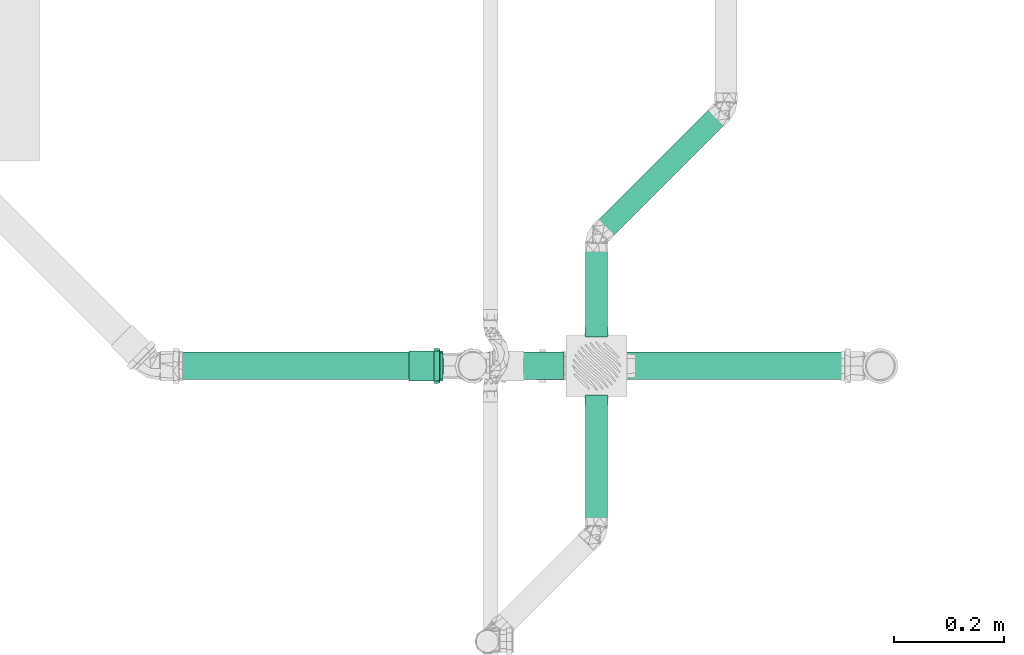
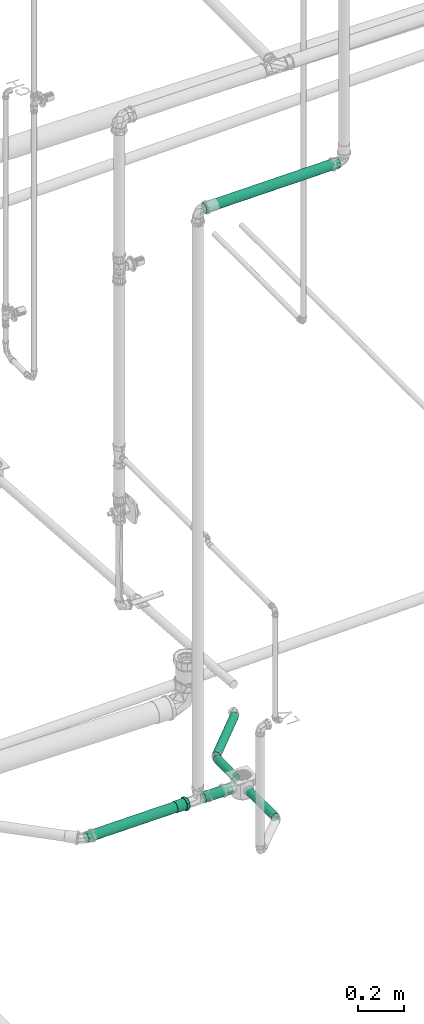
# One storey, part 85 of 589: 6 flow segments, 1 flow fitting.
"""IFC2X3 building model written with IfcOpenShell, lengths in millimetres."""

from ifc_helpers import new_model, entity, si_unit, converted_unit, derived_unit, direction, frame, frame_2d, origin, origin_2d_with_axis, place, context, subcontext, project, spatial, circle, extrude, faceted_brep, source, transform, mapped, material, type_object, type_shapes, element, save


model = new_model("IFC2X3")

# Units and contexts
model_context = context("Model", 3, precision=0.01, world=origin(), true_north=direction((6.123031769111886e-17, 1.0)))
body_context = subcontext(model_context, "Body", "Model", "MODEL_VIEW")
ifc_project = project(units=[si_unit("LENGTHUNIT", "METRE", prefix="MILLI"), si_unit("AREAUNIT", "SQUARE_METRE"), si_unit("VOLUMEUNIT", "CUBIC_METRE"), converted_unit("PLANEANGLEUNIT", "DEGREE", entity("IfcRatioMeasure", 0.017453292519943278), si_unit("PLANEANGLEUNIT", "RADIAN"), dimensions=[0, 0, 0, 0, 0, 0, 0]), si_unit("MASSUNIT", "GRAM", prefix="KILO"), derived_unit("MASSDENSITYUNIT", [(si_unit("MASSUNIT", "GRAM", prefix="KILO"), 1), (si_unit("LENGTHUNIT", "METRE"), -3)]), derived_unit("IONCONCENTRATIONUNIT", [(si_unit("MASSUNIT", "GRAM", prefix="KILO"), 1), (si_unit("LENGTHUNIT", "METRE"), -3)]), derived_unit("MOMENTOFINERTIAUNIT", [(si_unit("LENGTHUNIT", "METRE"), 4)]), si_unit("TIMEUNIT", "SECOND"), si_unit("FREQUENCYUNIT", "HERTZ"), si_unit("THERMODYNAMICTEMPERATUREUNIT", "DEGREE_CELSIUS"), derived_unit("THERMALTRANSMITTANCEUNIT", [(si_unit("MASSUNIT", "GRAM", prefix="KILO"), 1), (si_unit("THERMODYNAMICTEMPERATUREUNIT", "KELVIN"), -1), (si_unit("TIMEUNIT", "SECOND"), -3)]), derived_unit("THERMALCONDUCTANCEUNIT", [(si_unit("MASSUNIT", "GRAM", prefix="KILO"), 1), (si_unit("THERMODYNAMICTEMPERATUREUNIT", "KELVIN"), -1), (si_unit("TIMEUNIT", "SECOND"), -3), (si_unit("LENGTHUNIT", "METRE"), 1)]), derived_unit("VOLUMETRICFLOWRATEUNIT", [(si_unit("LENGTHUNIT", "METRE"), 3), (si_unit("TIMEUNIT", "SECOND"), -1)]), derived_unit("MASSFLOWRATEUNIT", [(si_unit("MASSUNIT", "GRAM", prefix="KILO"), 1), (si_unit("TIMEUNIT", "SECOND"), -1)]), derived_unit("ROTATIONALFREQUENCYUNIT", [(si_unit("TIMEUNIT", "SECOND"), -1)]), si_unit("ELECTRICCURRENTUNIT", "AMPERE"), si_unit("ELECTRICVOLTAGEUNIT", "VOLT"), si_unit("POWERUNIT", "WATT"), si_unit("FORCEUNIT", "NEWTON", prefix="KILO"), si_unit("ILLUMINANCEUNIT", "LUX"), si_unit("LUMINOUSFLUXUNIT", "LUMEN"), si_unit("LUMINOUSINTENSITYUNIT", "CANDELA"), derived_unit("USERDEFINED", [(si_unit("MASSUNIT", "GRAM", prefix="KILO"), -1), (si_unit("LENGTHUNIT", "METRE"), -2), (si_unit("TIMEUNIT", "SECOND"), 3), (si_unit("LUMINOUSFLUXUNIT", "LUMEN"), 1)]), derived_unit("USERDEFINED", [(si_unit("MASSUNIT", "GRAM", prefix="KILO"), 1), (si_unit("TIMEUNIT", "SECOND"), -3), (si_unit("LENGTHUNIT", "METRE"), 3), (si_unit("ELECTRICCURRENTUNIT", "AMPERE"), -2)]), derived_unit("SOUNDPOWERUNIT", [(si_unit("MASSUNIT", "GRAM", prefix="KILO"), 1), (si_unit("TIMEUNIT", "SECOND"), -3), (si_unit("LENGTHUNIT", "METRE"), 2)]), derived_unit("SOUNDPRESSUREUNIT", [(si_unit("MASSUNIT", "GRAM", prefix="KILO"), 1), (si_unit("LENGTHUNIT", "METRE"), -1), (si_unit("TIMEUNIT", "SECOND"), -2)]), derived_unit("LINEARVELOCITYUNIT", [(si_unit("LENGTHUNIT", "METRE"), 1), (si_unit("TIMEUNIT", "SECOND"), -1)]), si_unit("PRESSUREUNIT", "PASCAL"), derived_unit("USERDEFINED", [(si_unit("MASSUNIT", "GRAM", prefix="KILO"), 1), (si_unit("LENGTHUNIT", "METRE"), -2), (si_unit("TIMEUNIT", "SECOND"), -2)]), derived_unit("LINEARFORCEUNIT", [(si_unit("MASSUNIT", "GRAM", prefix="KILO"), 1), (si_unit("TIMEUNIT", "SECOND"), -2)]), derived_unit("PLANARFORCEUNIT", [(si_unit("MASSUNIT", "GRAM", prefix="KILO"), 1), (si_unit("LENGTHUNIT", "METRE"), -1), (si_unit("TIMEUNIT", "SECOND"), -2)]), derived_unit("SPECIFICHEATCAPACITYUNIT", [(si_unit("THERMODYNAMICTEMPERATUREUNIT", "KELVIN"), -1), (si_unit("LENGTHUNIT", "METRE"), 2), (si_unit("TIMEUNIT", "SECOND"), -2)]), derived_unit("HEATINGVALUEUNIT", [(si_unit("LENGTHUNIT", "METRE"), 2), (si_unit("TIMEUNIT", "SECOND"), -2)]), derived_unit("VAPORPERMEABILITYUNIT", [(si_unit("LENGTHUNIT", "METRE"), -1), (si_unit("TIMEUNIT", "SECOND"), 1)]), derived_unit("DYNAMICVISCOSITYUNIT", [(si_unit("MASSUNIT", "GRAM", prefix="KILO"), 1), (si_unit("TIMEUNIT", "SECOND"), -1), (si_unit("LENGTHUNIT", "METRE"), -1)]), derived_unit("THERMALEXPANSIONCOEFFICIENTUNIT", [(si_unit("THERMODYNAMICTEMPERATUREUNIT", "KELVIN"), -1)]), derived_unit("MODULUSOFELASTICITYUNIT", [(si_unit("MASSUNIT", "GRAM", prefix="KILO"), 1), (si_unit("LENGTHUNIT", "METRE"), -1), (si_unit("TIMEUNIT", "SECOND"), -2)]), derived_unit("ISOTHERMALMOISTURECAPACITYUNIT", [(si_unit("LENGTHUNIT", "METRE"), 3), (si_unit("MASSUNIT", "GRAM", prefix="KILO"), -1)]), derived_unit("MOISTUREDIFFUSIVITYUNIT", [(si_unit("TIMEUNIT", "SECOND"), -1), (si_unit("LENGTHUNIT", "METRE"), 2)])], contexts=[model_context])

# Site, building, storey
site_placement = place(None, origin())
site = spatial("IfcSite", under=ifc_project, at=site_placement, Name="Default", CompositionType="ELEMENT")
building_placement = place(site_placement, origin())
building = spatial("IfcBuilding", under=site, at=building_placement, CompositionType="ELEMENT")
storey_placement = place(building_placement, frame((0.0, 0.0, 100.0)))
storey = spatial("IfcBuildingStorey", under=building, at=storey_placement, Name="TÉRREO", CompositionType="ELEMENT", Elevation=100.0)

# Flow segments
pipe_segment_type = type_object("IfcPipeSegmentType", Name="Tipos de tubos:PVC Esgoto Série Normal", PredefinedType="NOTDEFINED")
flow_segment_1_placement = place(storey_placement, origin())
element("IfcFlowSegment", 1, at=flow_segment_1_placement, inside=storey, type_object=pipe_segment_type, Name="Tipos de tubos:PVC Esgoto Série Normal", ObjectType="Tipos de tubos:PVC Esgoto Série Normal", context=body_context, shape_type="SweptSolid", body=[
    extrude(circle(Radius=20.0, at=frame_2d((-7.65702690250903e-13, 1.6054240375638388e-15), x_axis=(1.0, 0.0))), frame((-7362.257950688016, -1033.5807166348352, -176.9681707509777), z_axis=(0.7069654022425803, 0.7069654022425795, 0.019996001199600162), x_axis=(-0.7071067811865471, 0.7071067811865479, 0.0)), (0.0, 0.0, 1.0), 309.4675500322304),
])
flow_segment_2_placement = place(storey_placement, origin())
element("IfcFlowSegment", 2, at=flow_segment_2_placement, inside=storey, type_object=pipe_segment_type, Name="Tipos de tubos:PVC Esgoto Série Normal", ObjectType="Tipos de tubos:PVC Esgoto Série Normal", context=body_context, shape_type="SweptSolid", body=[
    extrude(circle(Radius=20.0, at=frame_2d((0.0, -1.6916415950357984e-14), x_axis=(1.0, 0.0))), frame((-7370.385541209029, -1222.7092449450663, -180.81807248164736), z_axis=(0.0, 0.9998000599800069, 0.019996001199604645), x_axis=(1.0, 0.0, 0.0)), (0.0, 0.0, 1.0), 169.54068701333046),
])
flow_segment_3_placement = place(storey_placement, origin())
element("IfcFlowSegment", 3, at=flow_segment_3_placement, inside=storey, type_object=pipe_segment_type, Name="Tipos de tubos:PVC Esgoto Série Normal", ObjectType="Tipos de tubos:PVC Esgoto Série Normal", context=body_context, shape_type="SweptSolid", body=[
    extrude(circle(Radius=20.0, at=frame_2d((0.0, -1.6919798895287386e-14), x_axis=(1.0, 0.0))), frame((-7370.385541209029, -1565.8604659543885, -180.81807248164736), z_axis=(0.0, 1.0, 0.0), x_axis=(-1.0, 0.0, 0.0)), (0.0, 0.0, 1.0), 237.35122100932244),
])
flow_segment_4_placement = place(storey_placement, origin())
element("IfcFlowSegment", 4, at=flow_segment_4_placement, inside=storey, type_object=pipe_segment_type, Name="Tipos de tubos:PVC Esgoto Série Normal", ObjectType="Tipos de tubos:PVC Esgoto Série Normal", context=body_context, shape_type="SweptSolid", body=[
    extrude(circle(Radius=25.0, at=frame_2d((0.0, -1.691895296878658e-14), x_axis=(1.0, 0.0))), frame((-8161.48197080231, -1275.6092449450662, -188.13903677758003), z_axis=(0.9999500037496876, 0.0, 0.00999950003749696), x_axis=(0.0, 1.0, 0.0)), (0.0, 0.0, 1.0), 480.379283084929),
])
flow_segment_5_placement = place(storey_placement, origin())
element("IfcFlowSegment", 5, at=flow_segment_5_placement, inside=storey, type_object=pipe_segment_type, Name="Tipos de tubos:PVC Esgoto Série Normal", ObjectType="Tipos de tubos:PVC Esgoto Série Normal", context=body_context, shape_type="SweptSolid", body=[
    extrude(circle(Radius=25.0, at=frame_2d((0.0, -3.383959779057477e-14), x_axis=(1.0, 0.0))), frame((-7567.832369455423, -1275.6092449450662, -182.20254076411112), z_axis=(1.0, 0.0, 0.0), x_axis=(0.0, 1.0, 0.0)), (0.0, 0.0, 1.0), 138.44682824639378),
])
flow_segment_6_placement = place(storey_placement, origin())
element("IfcFlowSegment", 6, at=flow_segment_6_placement, inside=storey, type_object=pipe_segment_type, Name="Tipos de tubos:PVC Esgoto Série Normal", ObjectType="Tipos de tubos:PVC Esgoto Série Normal", context=body_context, shape_type="SweptSolid", body=[
    extrude(circle(Radius=25.0, at=origin_2d_with_axis()), frame((-7564.238781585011, -1275.6092449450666, 2972.586374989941), z_axis=(0.9999500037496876, 0.0, 0.009999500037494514), x_axis=(0.0, -1.0, 0.0)), (0.0, 0.0, 1.0), 678.1543991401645),
])

# Flow fitting
ifc_material = material(Name="PVC Série Normal")
pipe_fitting_type = type_object("IfcPipeFittingType", Name="PVC Esgoto_Luva Simples para Conexão_Rodrigo MEP:Standard", PredefinedType="NOTDEFINED", material=ifc_material)
shared_shape = source(origin(), body_context, "Body", "Brep", [
    faceted_brep([(16.599999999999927, 15.900000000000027, -27.53960784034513), (16.599999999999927, 22.485995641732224, -22.485995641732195), (16.599999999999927, 13.599999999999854, -23.555890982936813), (16.599999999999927, 7.039878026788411, -26.273182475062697), (16.599999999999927, 8.2304456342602, -30.71644127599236), (16.599999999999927, 19.233304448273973, -19.233304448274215), (16.599999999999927, 27.539607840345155, -15.899999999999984), (16.599999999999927, 23.55589098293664, -13.600000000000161), (16.599999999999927, 26.273182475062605, -7.03987802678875), (16.599999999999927, 30.716441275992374, -8.230445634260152), (16.599999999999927, 27.2, 0.0), (16.599999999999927, 31.8, 0.0), (16.599999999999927, 26.273182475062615, 7.0398780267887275), (16.599999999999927, 30.71644127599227, 8.23044563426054), (16.599999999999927, 23.555890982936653, 13.60000000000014), (16.599999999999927, 27.539607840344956, 15.900000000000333), (16.599999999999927, 19.233304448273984, 19.2333044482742), (16.599999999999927, 22.485995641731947, 22.48599564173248), (16.599999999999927, 13.599999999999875, 23.555890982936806), (16.599999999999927, 15.899999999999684, 27.53960784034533), (16.599999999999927, 7.039878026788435, 26.27318247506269), (16.599999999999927, 8.230445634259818, 30.716441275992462), (16.599999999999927, 0.0, 27.2), (16.599999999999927, 0.0, 31.8), (16.599999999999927, -7.039878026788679, 26.273182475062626), (16.599999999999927, -8.230445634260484, 30.716441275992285), (16.599999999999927, -13.600000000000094, 23.555890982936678), (16.599999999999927, -15.900000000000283, 27.53960784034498), (16.599999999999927, -19.23330444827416, 19.233304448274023), (16.599999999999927, -22.485995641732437, 22.48599564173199), (16.599999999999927, -23.55589098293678, 13.59999999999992), (16.599999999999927, -27.539607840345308, 15.899999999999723), (16.599999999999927, -30.71644127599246, 8.230445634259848), (16.599999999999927, -26.273182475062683, 7.039878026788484), (16.599999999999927, -31.8, 0.0), (16.599999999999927, -27.2, 0.0), (16.599999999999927, -30.71644127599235, -8.23044563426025), (16.599999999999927, -26.273182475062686, -7.03987802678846), (16.599999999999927, -27.53960784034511, -15.90000000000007), (16.599999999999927, -23.55589098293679, -13.599999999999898), (16.599999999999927, -22.485995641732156, -22.485995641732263), (16.599999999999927, -19.233304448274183, -19.233304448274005), (16.599999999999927, -15.899999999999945, -27.53960784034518), (16.599999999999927, -13.600000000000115, -23.555890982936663), (16.599999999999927, -8.230445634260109, -30.716441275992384), (16.599999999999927, -7.039878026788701, -26.273182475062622), (16.599999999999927, 0.0, -31.8), (16.599999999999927, 0.0, -27.2), (6.500000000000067, -10.708108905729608, 29.429219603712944), (6.500000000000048, -24.359073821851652, 20.44200387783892), (6.500000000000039, -27.120498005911, 15.6595386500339), (6.50000000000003, -29.881922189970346, 10.877073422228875), (6.500000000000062, -15.89769721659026, 27.540937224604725), (6.500000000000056, -20.128385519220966, 23.991470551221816), (6.50000000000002, -30.840961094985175, 5.438536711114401), (6.5000000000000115, -31.8, 0.0), (6.50000000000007, -5.518520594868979, 31.317501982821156), (6.500000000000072, 5.526376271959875, 31.316116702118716), (6.50000000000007, 0.00392783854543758, 31.316809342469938), (6.500000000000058, 20.134403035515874, 23.986420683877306), (6.500000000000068, 10.715490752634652, 29.42653259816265), (6.500000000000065, 15.904605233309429, 27.536948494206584), (6.500000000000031, 29.8846497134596, 10.869577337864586), (6.500000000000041, 27.12442527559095, 15.652735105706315), (6.5000000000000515, 24.364200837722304, 20.435892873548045), (6.5000000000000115, 31.8, 0.0), (6.499999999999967, 24.364200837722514, -20.435892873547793), (6.499999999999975, 27.12442527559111, -15.652735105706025), (6.499999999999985, 29.884649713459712, -10.869577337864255), (6.4999999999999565, 15.904605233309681, -27.53694849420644), (6.499999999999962, 20.134403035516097, -23.986420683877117), (6.499999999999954, 10.715490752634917, -29.42653259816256), (6.499999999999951, 5.526376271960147, -31.31611670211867), (6.499999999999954, -5.518520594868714, -31.317501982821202), (6.499999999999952, 0.003927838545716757, -31.316809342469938), (6.499999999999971, -20.128385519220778, -23.99147055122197), (6.499999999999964, -15.897697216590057, -27.54093722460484), (6.499999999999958, -10.70810890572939, -29.42921960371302), (6.499999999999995, -29.881922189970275, -10.877073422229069), (6.499999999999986, -27.12049800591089, -15.659538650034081), (6.499999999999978, -24.359073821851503, -20.442003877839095), (6.500000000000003, -30.840961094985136, -5.438536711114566), (6.499999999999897, -30.696173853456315, -6.259599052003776), (62.0, 13.600000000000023, -23.55589098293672), (62.0, 19.233304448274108, -19.23330444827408), (62.0, 12.499999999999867, -21.650635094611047), (62.0, 6.470476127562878, -24.14814565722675), (62.0, 7.039878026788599, -26.273182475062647), (62.0, 17.677669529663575, -17.677669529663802), (62.0, 23.55589098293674, -13.599999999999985), (62.0, 21.65063509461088, -12.50000000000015), (62.0, 24.148145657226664, -6.470476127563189), (62.0, 26.27318247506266, -7.039878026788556), (62.0, 25.0, 0.0), (62.0, 27.2, 0.0), (62.0, 24.148145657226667, 6.4704761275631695), (62.0, 26.273182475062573, 7.03987802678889), (62.0, 21.650635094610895, 12.500000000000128), (62.0, 23.555890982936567, 13.600000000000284), (62.0, 17.67766952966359, 17.67766952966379), (62.0, 19.233304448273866, 19.233304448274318), (62.0, 12.499999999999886, 21.650635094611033), (62.0, 13.59999999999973, 23.55589098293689), (62.0, 6.4704761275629, 24.14814565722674), (62.0, 7.039878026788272, 26.273182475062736), (62.0, 0.0, 25.0), (62.0, 0.0, 27.2), (62.0, -6.470476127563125, 24.148145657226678), (62.0, -7.039878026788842, 26.273182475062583), (62.0, -12.500000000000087, 21.650635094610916), (62.0, -13.600000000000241, 23.555890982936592), (62.0, -17.677669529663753, 17.677669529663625), (62.0, -19.233304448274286, 19.2333044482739), (62.0, -21.65063509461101, 12.499999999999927), (62.0, -23.555890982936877, 13.599999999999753), (62.0, -26.27318247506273, 7.039878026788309), (62.0, -24.14814565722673, 6.470476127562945), (62.0, -27.2, 0.0), (62.0, -25.0, 0.0), (62.0, -26.27318247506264, -7.0398780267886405), (62.0, -24.148145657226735, -6.470476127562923), (62.0, -23.5558909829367, -13.600000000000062), (62.0, -21.650635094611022, -12.499999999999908), (62.0, -19.233304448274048, -19.233304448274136), (62.0, -17.67766952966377, -17.677669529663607), (62.0, -13.599999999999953, -23.555890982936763), (62.0, -12.500000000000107, -21.650635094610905), (62.0, -7.039878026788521, -26.27318247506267), (62.0, -6.470476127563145, -24.148145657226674), (62.0, 0.0, -27.2), (62.0, 0.0, -25.0), (0.0, 12.499999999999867, -21.650635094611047), (0.0, 19.233304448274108, -19.23330444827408), (0.0, 13.600000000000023, -23.55589098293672), (0.0, 6.470476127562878, -24.14814565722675), (0.0, 17.677669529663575, -17.677669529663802), (0.0, 23.55589098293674, -13.599999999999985), (0.0, 21.65063509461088, -12.50000000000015), (0.0, 24.148145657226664, -6.470476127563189), (0.0, 26.27318247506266, -7.039878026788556), (0.0, 25.0, 0.0), (0.0, 27.2, 0.0), (0.0, 24.148145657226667, 6.4704761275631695), (0.0, 26.273182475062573, 7.03987802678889), (0.0, 21.650635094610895, 12.500000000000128), (0.0, 23.555890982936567, 13.600000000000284), (0.0, 17.67766952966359, 17.67766952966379), (0.0, 19.233304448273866, 19.233304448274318), (0.0, 12.499999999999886, 21.650635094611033), (0.0, 13.59999999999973, 23.55589098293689), (0.0, 6.4704761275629, 24.14814565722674), (0.0, 7.039878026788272, 26.273182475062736), (0.0, 0.0, 25.0), (0.0, 0.0, 27.2), (0.0, -6.470476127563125, 24.148145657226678), (0.0, -7.039878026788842, 26.273182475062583), (0.0, -12.500000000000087, 21.650635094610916), (0.0, -13.600000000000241, 23.555890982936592), (0.0, -17.677669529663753, 17.677669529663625), (0.0, -19.233304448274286, 19.2333044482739), (0.0, -21.65063509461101, 12.499999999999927), (0.0, -23.555890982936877, 13.599999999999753), (0.0, -26.27318247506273, 7.039878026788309), (0.0, -24.14814565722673, 6.470476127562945), (0.0, -27.2, 0.0), (0.0, -25.0, 0.0), (0.0, -26.27318247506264, -7.0398780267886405), (0.0, -24.148145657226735, -6.470476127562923), (0.0, -23.5558909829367, -13.600000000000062), (0.0, -21.650635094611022, -12.499999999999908), (0.0, -19.233304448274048, -19.233304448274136), (0.0, -17.67766952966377, -17.677669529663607), (0.0, -13.599999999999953, -23.555890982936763), (0.0, -12.500000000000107, -21.650635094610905), (0.0, -7.039878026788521, -26.27318247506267), (0.0, -6.470476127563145, -24.148145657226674), (0.0, 0.0, -27.2), (0.0, 0.0, -25.0), (0.0, 7.039878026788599, -26.273182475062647), (5.300000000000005, -26.37968999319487, 4.651830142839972), (5.299999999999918, -26.25584678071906, 5.354122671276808), (5.300000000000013, -25.559379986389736, 9.303660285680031), (5.300000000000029, -20.835434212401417, 17.48498444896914), (5.300000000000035, -17.216732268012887, 20.521006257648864), (5.300000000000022, -23.19740709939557, 13.394322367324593), (5.3000000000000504, -4.720244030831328, 26.787297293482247), (5.300000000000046, -9.15913717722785, 25.172162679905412), (5.299999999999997, -27.2, 0.0), (5.300000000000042, -13.598030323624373, 23.557028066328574), (5.300000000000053, 9.165451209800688, 25.169864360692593), (5.300000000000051, 13.603939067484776, 23.55361632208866), (5.300000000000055, 4.7269633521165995, 26.786112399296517), (5.300000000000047, 17.221879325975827, 20.516686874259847), (5.300000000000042, 20.839819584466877, 17.479757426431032), (5.3000000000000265, 25.56171296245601, 9.297248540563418), (5.299999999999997, 27.2, 0.0), (5.3000000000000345, 23.20076627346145, 13.388502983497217), (5.300000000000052, 0.003359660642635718, 26.786704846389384), (5.299999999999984, 25.56171296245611, -9.29724854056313), (5.299999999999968, 20.839819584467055, -17.47975742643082), (5.2999999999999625, 17.22187932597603, -20.516686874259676), (5.299999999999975, 23.200766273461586, -13.388502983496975), (5.299999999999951, 4.726963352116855, -26.78611239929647), (5.2999999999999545, 9.165451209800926, -25.169864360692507), (5.299999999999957, 13.603939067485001, -23.553616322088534), (5.29999999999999, -26.379689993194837, -4.651830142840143), (5.299999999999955, -9.159137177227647, -25.17216267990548), (5.299999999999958, -13.5980303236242, -23.55702806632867), (5.299999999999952, -4.720244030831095, -26.787297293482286), (5.299999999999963, -17.216732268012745, -20.52100625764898), (5.299999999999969, -20.83543421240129, -17.484984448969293), (5.299999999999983, -25.559379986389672, -9.303660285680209), (5.299999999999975, -23.197407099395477, -13.394322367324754), (5.299999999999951, 0.003359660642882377, -26.78670484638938), (39.0, -25.0, 0.0), (39.0, 25.0, 0.0)], [[[0, 1, 2]], [[0, 2, 3]], [[3, 4, 0]], [[2, 1, 5]], [[6, 5, 1]], [[7, 5, 6]], [[8, 7, 6]], [[8, 6, 9]], [[8, 9, 10]], [[10, 9, 11]], [[12, 10, 11]], [[12, 11, 13]], [[14, 12, 13]], [[14, 13, 15]], [[16, 14, 15]], [[15, 17, 16]], [[17, 18, 16]], [[17, 19, 18]], [[18, 19, 20]], [[21, 20, 19]], [[20, 21, 22]], [[22, 21, 23]], [[22, 23, 24]], [[24, 23, 25]], [[24, 25, 26]], [[27, 26, 25]], [[27, 28, 26]], [[28, 27, 29]], [[30, 28, 29]], [[31, 30, 29]], [[32, 30, 31]], [[33, 30, 32]], [[33, 32, 34]], [[35, 33, 34]], [[36, 35, 34]], [[36, 37, 35]], [[37, 36, 38]], [[39, 37, 38]], [[39, 38, 40]], [[39, 40, 41]], [[40, 42, 41]], [[41, 42, 43]], [[43, 42, 44]], [[44, 45, 43]], [[46, 45, 44]], [[4, 47, 46]], [[46, 47, 45]], [[4, 3, 47]], [[48, 27, 25]], [[31, 29, 49]], [[31, 49, 50, 51]], [[52, 53, 27]], [[32, 51, 54]], [[54, 55, 34]], [[54, 34, 32]], [[25, 56, 48]], [[49, 29, 53]], [[23, 57, 58, 56]], [[59, 19, 17]], [[27, 53, 29]], [[48, 52, 27]], [[31, 51, 32]], [[57, 23, 21]], [[60, 19, 61]], [[15, 62, 63, 64]], [[19, 60, 21]], [[15, 13, 62]], [[17, 64, 59]], [[57, 21, 60]], [[23, 56, 25]], [[15, 64, 17]], [[13, 65, 62]], [[13, 11, 65]], [[59, 61, 19]], [[65, 11, 9]], [[6, 1, 66]], [[6, 66, 67, 68]], [[69, 70, 0]], [[68, 65, 9]], [[71, 69, 0]], [[71, 0, 4]], [[4, 72, 71]], [[66, 1, 70]], [[46, 73, 74, 72]], [[75, 76, 42]], [[0, 70, 1]], [[75, 42, 40]], [[6, 68, 9]], [[73, 46, 44]], [[77, 42, 76]], [[38, 78, 79, 80]], [[42, 77, 44]], [[38, 36, 78]], [[40, 80, 75]], [[73, 44, 77]], [[46, 72, 4]], [[38, 80, 40]], [[36, 81, 82, 78]], [[55, 81, 34]], [[34, 81, 36]], [[83, 84, 85]], [[83, 85, 86]], [[86, 87, 83]], [[85, 84, 88]], [[89, 88, 84]], [[88, 89, 90]], [[90, 89, 91]], [[92, 91, 89]], [[92, 93, 91]], [[93, 92, 94]], [[95, 93, 94]], [[94, 96, 95]], [[95, 96, 97]], [[98, 97, 96]], [[97, 98, 99]], [[99, 98, 100]], [[101, 99, 100]], [[100, 102, 101]], [[101, 102, 103]], [[104, 103, 102]], [[103, 104, 105]], [[105, 104, 106]], [[105, 106, 107]], [[107, 106, 108]], [[107, 108, 109]], [[110, 109, 108]], [[110, 111, 109]], [[111, 110, 112]], [[112, 113, 111]], [[114, 113, 112]], [[113, 114, 115]], [[115, 116, 113]], [[117, 116, 115]], [[117, 118, 116]], [[119, 118, 117]], [[119, 120, 118]], [[120, 119, 121]], [[121, 122, 120]], [[122, 121, 123]], [[122, 123, 124]], [[123, 125, 124]], [[124, 125, 126]], [[126, 125, 127]], [[127, 128, 126]], [[129, 128, 127]], [[87, 130, 129]], [[129, 130, 128]], [[87, 86, 130]], [[131, 132, 133]], [[134, 131, 133]], [[135, 132, 131]], [[132, 135, 136]], [[137, 136, 135]], [[138, 136, 137]], [[136, 138, 139]], [[138, 140, 139]], [[141, 139, 140]], [[141, 140, 142]], [[142, 143, 141]], [[144, 143, 142]], [[143, 144, 145]], [[146, 145, 144]], [[147, 145, 146]], [[147, 146, 148]], [[148, 149, 147]], [[150, 149, 148]], [[149, 150, 151]], [[152, 151, 150]], [[153, 151, 152]], [[154, 153, 152]], [[155, 153, 154]], [[156, 155, 154]], [[155, 156, 157]], [[156, 158, 157]], [[159, 157, 158]], [[158, 160, 159]], [[159, 160, 161]], [[162, 161, 160]], [[160, 163, 162]], [[162, 163, 164]], [[163, 165, 164]], [[164, 165, 166]], [[165, 167, 166]], [[168, 166, 167]], [[167, 169, 168]], [[170, 168, 169]], [[171, 170, 169]], [[171, 172, 170]], [[173, 172, 171]], [[174, 172, 173]], [[173, 175, 174]], [[174, 175, 176]], [[175, 177, 176]], [[177, 134, 178]], [[176, 177, 178]], [[133, 178, 134]], [[162, 179, 180, 181]], [[159, 182, 183]], [[182, 161, 181, 184]], [[185, 155, 186]], [[161, 162, 181]], [[187, 179, 164]], [[183, 188, 157]], [[183, 157, 159]], [[161, 182, 159]], [[189, 190, 149]], [[189, 149, 151]], [[157, 188, 186]], [[157, 186, 155]], [[153, 155, 185]], [[164, 179, 162]], [[151, 191, 189]], [[147, 192, 193]], [[143, 194, 195]], [[194, 145, 193, 196]], [[143, 195, 141]], [[10, 12, 96, 94]], [[149, 192, 147]], [[153, 185, 197, 191]], [[153, 191, 151]], [[145, 147, 193]], [[190, 192, 149]], [[145, 194, 143]], [[139, 195, 198]], [[132, 199, 200]], [[199, 136, 198, 201]], [[202, 178, 203]], [[136, 139, 198]], [[139, 141, 195]], [[92, 8, 10, 94]], [[133, 203, 178]], [[200, 204, 133]], [[136, 199, 132]], [[205, 164, 166]], [[206, 207, 172]], [[133, 204, 203]], [[206, 172, 174]], [[176, 178, 202]], [[200, 133, 132]], [[174, 208, 206]], [[170, 209, 210]], [[166, 211, 205]], [[211, 168, 210, 212]], [[168, 211, 166]], [[172, 209, 170]], [[176, 202, 213, 208]], [[176, 208, 174]], [[168, 170, 210]], [[207, 209, 172]], [[205, 187, 164]], [[116, 118, 214, 165, 163]], [[156, 109, 111, 158]], [[111, 113, 160, 158]], [[113, 116, 163, 160]], [[107, 109, 156, 154]], [[154, 152, 105, 107]], [[103, 105, 152, 150]], [[103, 150, 148, 101]], [[142, 95, 97, 144]], [[97, 99, 146, 144]], [[99, 101, 148, 146]], [[93, 95, 142, 140, 215]], [[215, 140, 138, 91, 93]], [[135, 131, 85, 88]], [[90, 91, 138, 137]], [[90, 137, 135, 88]], [[86, 85, 131, 134]], [[134, 177, 130, 86]], [[128, 130, 177, 175]], [[128, 175, 173, 126]], [[167, 120, 122, 169]], [[122, 124, 171, 169]], [[124, 126, 173, 171]], [[118, 120, 167, 165, 214]], [[211, 78, 82, 81, 55, 187, 205]], [[79, 78, 211, 212, 210, 80]], [[75, 80, 210, 209, 207, 76]], [[207, 206, 208, 73, 77, 76]], [[213, 202, 72, 74, 73, 208]], [[203, 204, 69, 71, 72, 202]], [[198, 195, 65, 68]], [[199, 201, 198, 68, 67, 66]], [[204, 200, 199, 66, 70, 69]], [[195, 194, 62, 65]], [[197, 185, 56, 58, 57, 191]], [[63, 62, 194, 196, 193, 64]], [[57, 60, 61, 190, 189, 191]], [[193, 192, 190, 61, 59, 64]], [[48, 56, 185, 186, 188, 52]], [[187, 55, 54, 51, 181, 180, 179]], [[182, 184, 181, 51, 50, 49]], [[188, 183, 182, 49, 53, 52]], [[30, 33, 115, 114]], [[117, 115, 33, 35]], [[26, 28, 112, 110]], [[114, 112, 28, 30]], [[24, 26, 110, 108]], [[108, 106, 22, 24]], [[18, 20, 104, 102]], [[100, 16, 18, 102]], [[12, 14, 98, 96]], [[100, 98, 14, 16]], [[104, 20, 22, 106]], [[89, 7, 8, 92]], [[83, 87, 3, 2]], [[7, 89, 84, 5]], [[83, 2, 5, 84]], [[87, 129, 47, 3]], [[43, 45, 127, 125]], [[123, 41, 43, 125]], [[37, 39, 121, 119]], [[123, 121, 39, 41]], [[35, 37, 119, 117]], [[127, 45, 47, 129]]]),
])
type_shapes(pipe_fitting_type, [shared_shape])
flow_fitting_placement = place(storey_placement, frame((-7648.828319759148, -1275.6092449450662, -183.01250026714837), z_axis=(0.0, 1.0, 0.0), x_axis=(-0.9999500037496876, 0.0, -0.009999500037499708)))
element("IfcFlowFitting", 7, at=flow_fitting_placement, inside=storey, type_object=pipe_fitting_type, material=ifc_material, Name="PVC Esgoto_Luva Simples para Conexão_Rodrigo MEP:Standard", ObjectType="PVC Esgoto_Luva Simples para Conexão_Rodrigo MEP:Standard", context=body_context, shape_type="MappedRepresentation", body=[
    mapped(shared_shape, transform((0.0, 0.0, 0.0), scale=1.0)),
])

save(model, "model.ifc")
